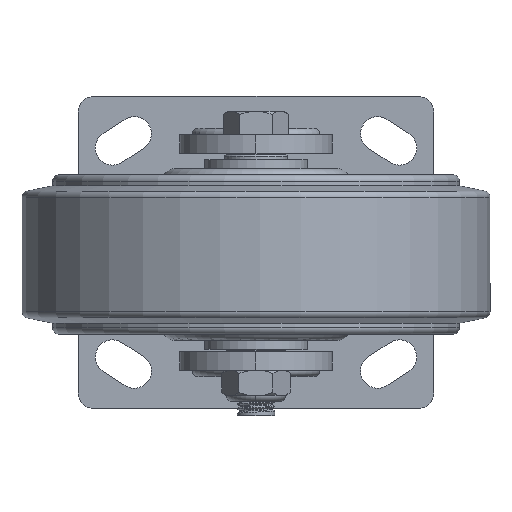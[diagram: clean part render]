
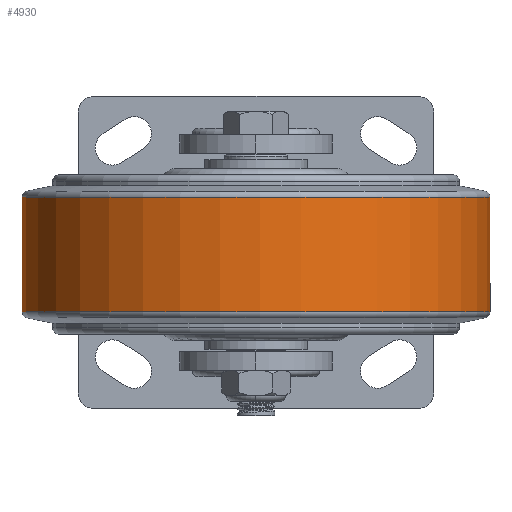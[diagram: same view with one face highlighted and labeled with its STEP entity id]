
A CAD part, front view. The second image highlights one B-rep face of the part: STEP entity #4930.
In plain terms, the highlighted cylindrical face has radius 75 mm (diameter 150 mm), a partial arc.
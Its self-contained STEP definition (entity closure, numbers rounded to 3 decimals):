
#391 = VERTEX_POINT ( 'NONE', #6510 ) ;
#1321 = VERTEX_POINT ( 'NONE', #38510 ) ;
#1921 = ORIENTED_EDGE ( 'NONE', *, *, #16911, .T. ) ;
#2318 = VERTEX_POINT ( 'NONE', #19913 ) ;
#3253 = ORIENTED_EDGE ( 'NONE', *, *, #4968, .F. ) ;
#4614 = FACE_OUTER_BOUND ( 'NONE', #31975, .T. ) ;
#4930 = ADVANCED_FACE ( 'NONE', ( #4614 ), #39982, .T. ) ;
#4968 = EDGE_CURVE ( 'NONE', #2318, #391, #33948, .T. ) ;
#6510 = CARTESIAN_POINT ( 'NONE',  ( 0., -18.367, 75. ) ) ;
#8127 = CIRCLE ( 'NONE', #33802, 75. ) ;
#9944 = CIRCLE ( 'NONE', #35629, 75. ) ;
#10124 = EDGE_CURVE ( 'NONE', #12918, #391, #8127, .T. ) ;
#10866 = DIRECTION ( 'NONE',  ( 0., 0., 1. ) ) ;
#12327 = VECTOR ( 'NONE', #26648, 1000. ) ;
#12918 = VERTEX_POINT ( 'NONE', #17708 ) ;
#16911 = EDGE_CURVE ( 'NONE', #1321, #12918, #44145, .T. ) ;
#17708 = CARTESIAN_POINT ( 'NONE',  ( 0., -18.367, -75. ) ) ;
#19913 = CARTESIAN_POINT ( 'NONE',  ( 0., 18.367, 75. ) ) ;
#22259 = ORIENTED_EDGE ( 'NONE', *, *, #33220, .T. ) ;
#24664 = DIRECTION ( 'NONE',  ( 0., -1., 0. ) ) ;
#26648 = DIRECTION ( 'NONE',  ( 0., -1., 0. ) ) ;
#29422 = CARTESIAN_POINT ( 'NONE',  ( 0., 0., -75. ) ) ;
#30342 = DIRECTION ( 'NONE',  ( 0., -1., 0. ) ) ;
#30401 = VECTOR ( 'NONE', #30342, 1000. ) ;
#30532 = CARTESIAN_POINT ( 'NONE',  ( 0., 0., 0. ) ) ;
#31313 = CARTESIAN_POINT ( 'NONE',  ( 0., 18.367, 0. ) ) ;
#31975 = EDGE_LOOP ( 'NONE', ( #3253, #22259, #1921, #38823 ) ) ;
#33220 = EDGE_CURVE ( 'NONE', #2318, #1321, #9944, .T. ) ;
#33575 = AXIS2_PLACEMENT_3D ( 'NONE', #30532, #37217, #44107 ) ;
#33802 = AXIS2_PLACEMENT_3D ( 'NONE', #34645, #44804, #44349 ) ;
#33948 = LINE ( 'NONE', #37889, #12327 ) ;
#34645 = CARTESIAN_POINT ( 'NONE',  ( 0., -18.367, 0. ) ) ;
#35629 = AXIS2_PLACEMENT_3D ( 'NONE', #31313, #24664, #10866 ) ;
#37217 = DIRECTION ( 'NONE',  ( 0., -1., 0. ) ) ;
#37889 = CARTESIAN_POINT ( 'NONE',  ( 0., 0., 75. ) ) ;
#38510 = CARTESIAN_POINT ( 'NONE',  ( 0., 18.367, -75. ) ) ;
#38823 = ORIENTED_EDGE ( 'NONE', *, *, #10124, .T. ) ;
#39982 = CYLINDRICAL_SURFACE ( 'NONE', #33575, 75. ) ;
#44107 = DIRECTION ( 'NONE',  ( 0., 0., -1. ) ) ;
#44145 = LINE ( 'NONE', #29422, #30401 ) ;
#44349 = DIRECTION ( 'NONE',  ( 0., 0., 1. ) ) ;
#44804 = DIRECTION ( 'NONE',  ( 0., 1., 0. ) ) ;
